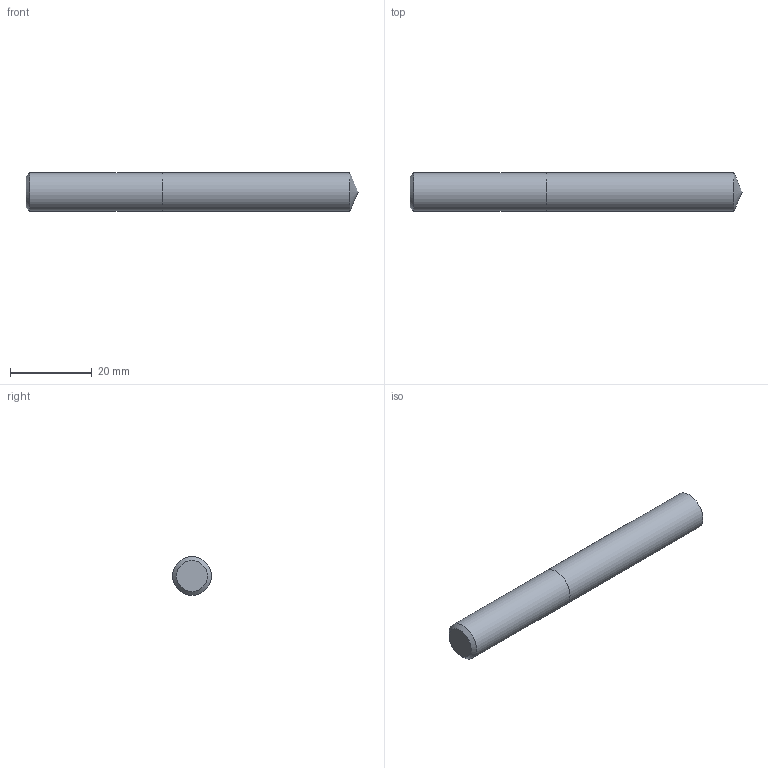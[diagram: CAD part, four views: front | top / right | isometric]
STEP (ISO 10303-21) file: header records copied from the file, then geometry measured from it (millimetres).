
FILE_DESCRIPTION (( 'STEP AP214' ), '1' );
FILE_NAME ('03-2423.STEP', '2022-06-03T07:34:42', ( 'USER' ), ( '' ), 'SwSTEP 2.0', 'SolidWorks 2018', '' );
FILE_SCHEMA (( 'AUTOMOTIVE_DESIGN' ));
Length unit declared in the file: inch
Products named in the file (1): 03-2423
Bounding box: 81.35 x 9.53 x 9.53 mm (x, y, z)
Volume: 5690.1 mm3; surface area: 2648.2 mm2
Topology: 2 solids, 2 shells, 7 faces, 11 edges, 7 vertices
Faces by surface type: plane 3, cylinder 2, cone 2
Full cylindrical faces by diameter (mm): 9.525 x2
Entity records: 214 total; most frequent: DIRECTION 26, CARTESIAN_POINT 18, AXIS2_PLACEMENT_3D 13, EDGE_LOOP 10, ORIENTED_EDGE 10, FACE_OUTER_BOUND 9, ADVANCED_FACE 7, DIMENSIONAL_EXPONENTS 7
